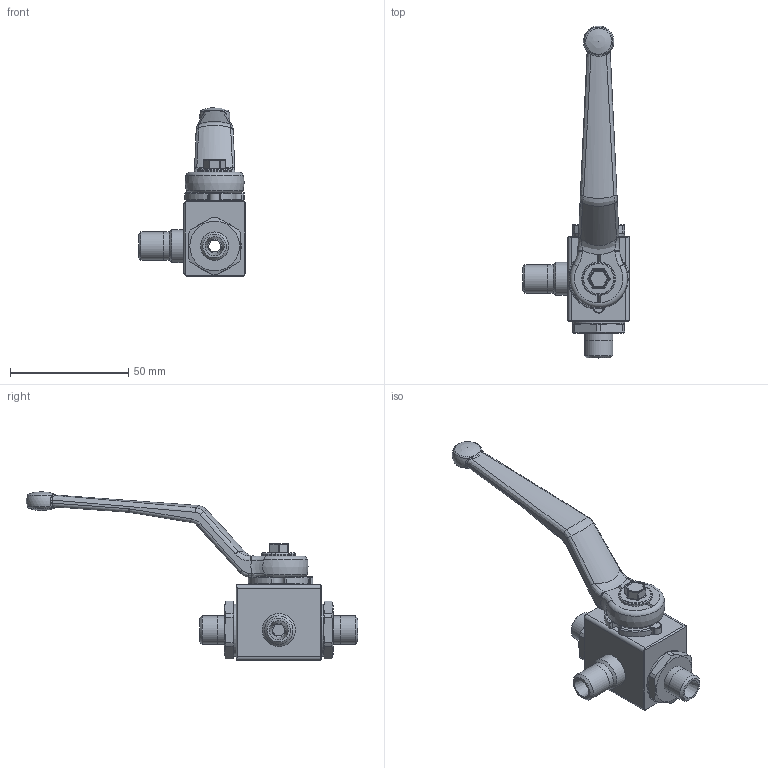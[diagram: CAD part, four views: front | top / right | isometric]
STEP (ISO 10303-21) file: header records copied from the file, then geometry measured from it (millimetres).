
FILE_DESCRIPTION( ( 'Unknown' ), '1' );
FILE_NAME( 'H:/PISTER/3D-MODELLE/BK3 stp/BK3 DN4 6L.stp', 'Unknown', ( 'Unknown' ), ( 'Unknown' ), 'PSStep 14.0', 'Unknown', ' ' );
FILE_SCHEMA( ( 'AUTOMOTIVE_DESIGN { 1 0 10303 214 1 1 1 1 }' ) );
Length unit declared in the file: millimetre
Products named in the file (10): Assem1; 06-008-059-oa7; 09-09-002; 58-28740-07-oa8; Griff_SW9; 58-0933-133; 04-004-022-oa9; 04-004-022-oa10; 04-004-020-oa11; 01-008-014-oa12
Assembly tree (9 placements, depth 2):
  Assem1
    06-008-059-oa7
    09-09-002
    58-28740-07-oa8
    Griff_SW9
    58-0933-133
    04-004-022-oa9
    04-004-022-oa10
    04-004-020-oa11
    01-008-014-oa12
Bounding box: 45.2 x 140.5 x 71.4 mm (x, y, z)
Volume: 27055 mm3; surface area: 22049.2 mm2
Topology: 9 solids, 9 shells, 390 faces, 966 edges, 583 vertices
Faces by surface type: cylinder 134, plane 124, bspline 42, torus 38, cone 32, sphere 20
Full cylindrical faces by diameter (mm): 4.134 x1, 4.98 x1, 5 x4, 6 x3, 12 x6, 14 x4, 14.3 x1, 22 x2, 22.5 x2
Entity records: 15860 total; most frequent: CARTESIAN_POINT 3962, DIRECTION 1853, ORIENTED_EDGE 1714, EDGE_CURVE 857, AXIS2_PLACEMENT_3D 756, VERTEX_POINT 550, EDGE_LOOP 472, FACE_OUTER_BOUND 424
